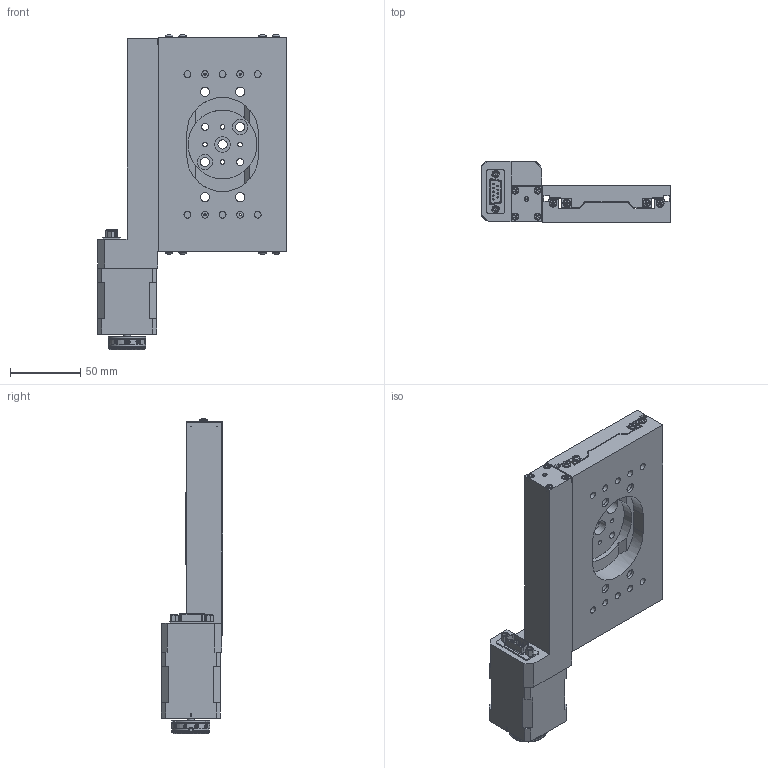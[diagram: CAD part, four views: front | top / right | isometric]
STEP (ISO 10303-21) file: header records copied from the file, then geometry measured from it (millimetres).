
FILE_DESCRIPTION((''),'2;1');
FILE_NAME('D:\Darius\Schemos\08\8MT167-100\step\8MT167-100-platform.stp','2013-02-21T11:28:09',('Darius'),(''),'Autodesk Inventor 2013','Autodesk Inventor 2013','');
FILE_SCHEMA(('AUTOMOTIVE_DESIGN { 1 0 10303 214 1 1 1 1 }'));
Length unit declared in the file: millimetre
Products named in the file (3): Assembly2; Part12; Part14
Assembly tree (2 placements, depth 2):
  Assembly2
    Part12
    Part14
Bounding box: 134.5 x 43.6 x 224.37 mm (x, y, z)
Volume: 471613.8 mm3; surface area: 122020.5 mm2
Topology: 2 solids, 38 shells, 2767 faces, 7583 edges, 4992 vertices
Faces by surface type: plane 1292, cylinder 737, bspline 435, cone 236, torus 48, sphere 19
Full cylindrical faces by diameter (mm): 1 x9, 1.5 x20, 1.567 x2, 2.013 x16, 2.459 x45, 2.5 x6, 2.8 x4, 3 x2, 3.242 x21, 3.302 x2, 3.4 x2, 3.5 x3, 4.5 x4, 4.917 x32, 5 x5, 5.6 x2, 6.5 x7, 11 x11, 12 x1, 18.5 x1, 19.1 x1, 23 x1, 25 x1, 27 x1, 32 x1, 48.8 x1, 49 x1, 50.8 x2, 51 x1
Entity records: 118915 total; most frequent: CARTESIAN_POINT 54638, ORIENTED_EDGE 14068, DIRECTION 11747, EDGE_CURVE 7034, VERTEX_POINT 4794, AXIS2_PLACEMENT_3D 4287, EDGE_LOOP 3330, VECTOR 3173
